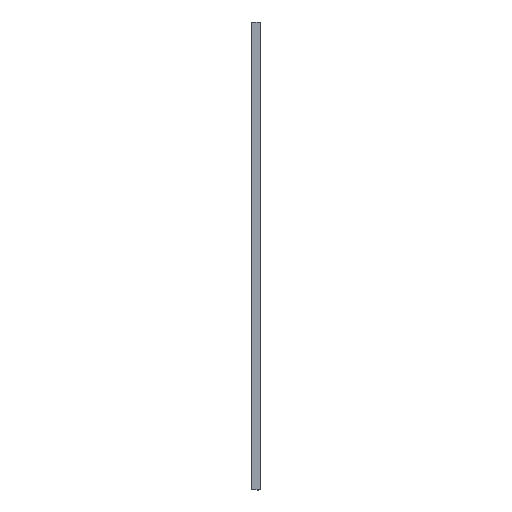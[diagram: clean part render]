
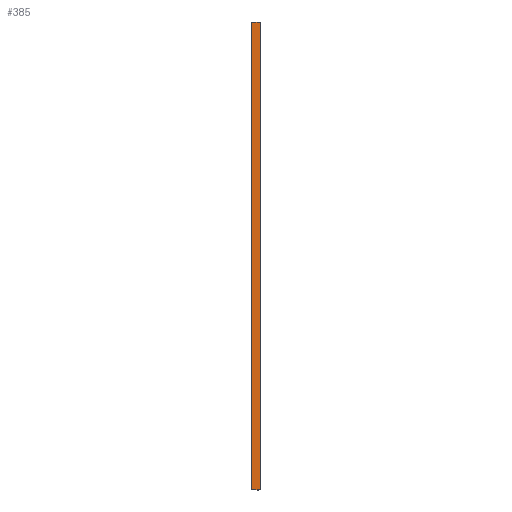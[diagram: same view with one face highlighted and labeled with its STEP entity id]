
A CAD part, left-side view. The second image highlights one B-rep face of the part: STEP entity #385.
In plain terms, the highlighted planar face has unit normal (-1, 0, 0).
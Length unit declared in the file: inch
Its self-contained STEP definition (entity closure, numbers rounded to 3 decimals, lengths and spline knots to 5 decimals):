
#10 = CARTESIAN_POINT ( 'NONE',  ( 0., 0.0375, 120. ) ) ;
#18 = ORIENTED_EDGE ( 'NONE', *, *, #400, .T. ) ;
#21 = CARTESIAN_POINT ( 'NONE',  ( 0., 2.25, 120. ) ) ;
#26 = LINE ( 'NONE', #10, #348 ) ;
#48 = DIRECTION ( 'NONE',  ( 0., 0., -1. ) ) ;
#59 = DIRECTION ( 'NONE',  ( 0., 0., -1. ) ) ;
#72 = EDGE_CURVE ( 'NONE', #283, #257, #144, .T. ) ;
#84 = EDGE_CURVE ( 'NONE', #283, #172, #315, .T. ) ;
#94 = DIRECTION ( 'NONE',  ( 0., -1., 0. ) ) ;
#120 = ORIENTED_EDGE ( 'NONE', *, *, #72, .F. ) ;
#124 = VECTOR ( 'NONE', #285, 39.37008 ) ;
#127 = AXIS2_PLACEMENT_3D ( 'NONE', #149, #383, #178 ) ;
#144 = LINE ( 'NONE', #299, #390 ) ;
#149 = CARTESIAN_POINT ( 'NONE',  ( 0., 0.0375, 120. ) ) ;
#165 = VECTOR ( 'NONE', #59, 39.37008 ) ;
#171 = CARTESIAN_POINT ( 'NONE',  ( 0., 2.25, 0. ) ) ;
#172 = VERTEX_POINT ( 'NONE', #171 ) ;
#178 = DIRECTION ( 'NONE',  ( 0., 0., -1. ) ) ;
#195 = CARTESIAN_POINT ( 'NONE',  ( 0., 2.25, 120. ) ) ;
#208 = CARTESIAN_POINT ( 'NONE',  ( 0., 0.0375, 120. ) ) ;
#213 = CARTESIAN_POINT ( 'NONE',  ( 0., 0.0375, 0. ) ) ;
#214 = CARTESIAN_POINT ( 'NONE',  ( 0., 0.0375, 0. ) ) ;
#237 = LINE ( 'NONE', #214, #124 ) ;
#257 = VERTEX_POINT ( 'NONE', #208 ) ;
#272 = ORIENTED_EDGE ( 'NONE', *, *, #357, .F. ) ;
#283 = VERTEX_POINT ( 'NONE', #21 ) ;
#285 = DIRECTION ( 'NONE',  ( 0., -1., 0. ) ) ;
#299 = CARTESIAN_POINT ( 'NONE',  ( 0., 0.0375, 120. ) ) ;
#315 = LINE ( 'NONE', #195, #165 ) ;
#318 = PLANE ( 'NONE',  #127 ) ;
#321 = ORIENTED_EDGE ( 'NONE', *, *, #84, .T. ) ;
#348 = VECTOR ( 'NONE', #48, 39.37008 ) ;
#357 = EDGE_CURVE ( 'NONE', #257, #388, #26, .T. ) ;
#383 = DIRECTION ( 'NONE',  ( 1., 0., 0. ) ) ;
#385 = ADVANCED_FACE ( 'NONE', ( #446 ), #318, .F. ) ;
#388 = VERTEX_POINT ( 'NONE', #213 ) ;
#390 = VECTOR ( 'NONE', #94, 39.37008 ) ;
#400 = EDGE_CURVE ( 'NONE', #172, #388, #237, .T. ) ;
#443 = EDGE_LOOP ( 'NONE', ( #18, #272, #120, #321 ) ) ;
#446 = FACE_OUTER_BOUND ( 'NONE', #443, .T. ) ;
